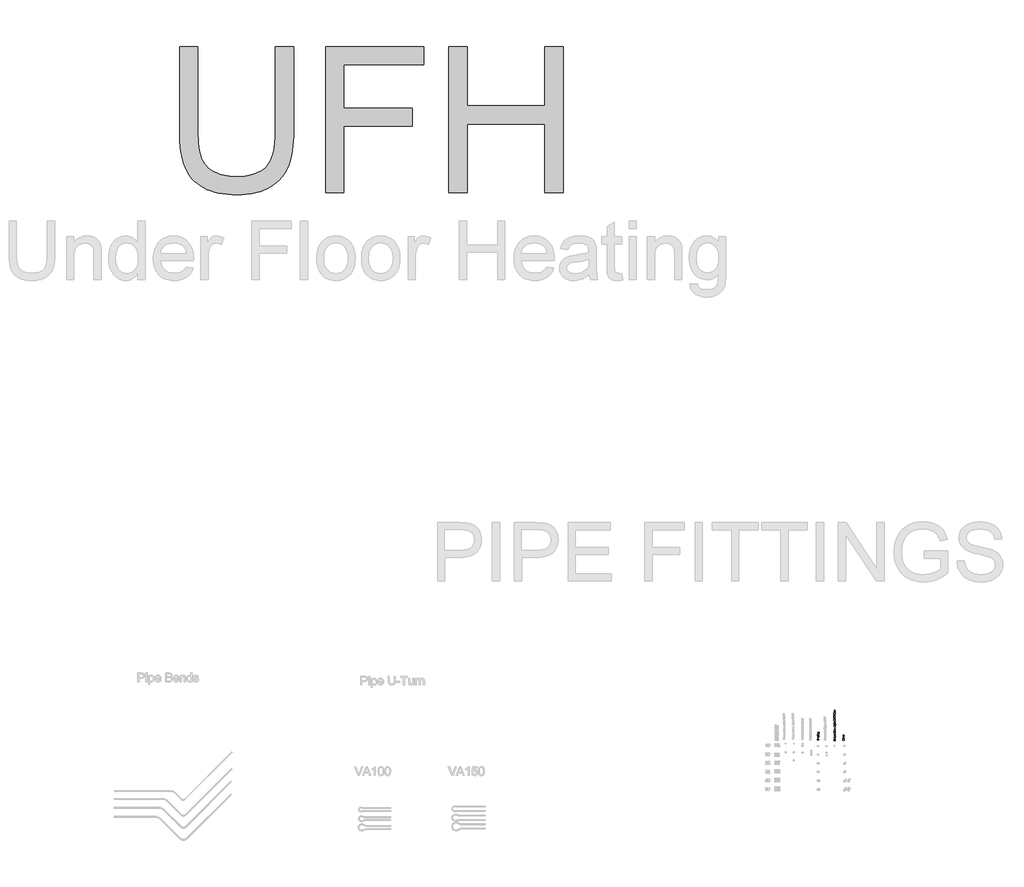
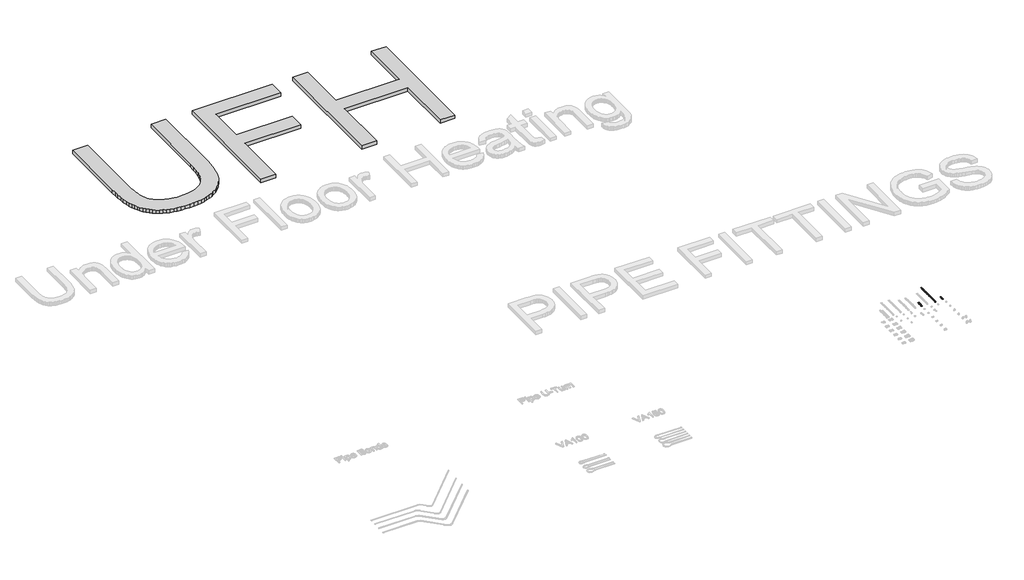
# One storey, part 25 of 26: 4 proxies.
"""IFC4 building model written with IfcOpenShell, lengths in millimetres."""

from ifc_helpers import new_model, si_unit, origin, origin_with_axes, place, context, project, spatial, polyline, outline, extrude, element, save

model = new_model("IFC4")

# Units and contexts
model_context = context("Model", 3, world=origin())
ifc_project = project(units=[si_unit("LENGTHUNIT", "METRE", prefix="MILLI")], contexts=[model_context])

# Site, building, storey
site = spatial("IfcSite", under=ifc_project)
building = spatial("IfcBuilding", under=site)
storey = spatial("IfcBuildingStorey", under=building, Name="Superpipe UFH", Elevation=0.0)

# Proxies
placement = place(None, origin())
element("IfcBuildingElementProxy", 1, Name="5000mm Arial", ObjectType="5000mm Arial", at=placement, inside=storey, context=model_context, shape_type="SweptSolid", body=[
    extrude(outline(polyline([(8543.2862209, 56268.9823855), (9171.1381593, 56268.9823855), (9171.1381593, 53371.2985368), (9168.4748469, 53187.0222301), (9160.4849098, 53012.4986284), (9147.168348, 52847.7277316), (9128.5251615, 52692.7095399), (9104.5553503, 52547.4440531), (9075.2589143, 52411.9312713), (9040.6358536, 52286.1711944), (9000.6861682, 52170.1638226), (8953.8003743, 52061.6194735), (8898.3689883, 51958.2484649), (8834.3920101, 51860.0507969), (8761.8694397, 51767.0264695), (8680.8012771, 51679.1754826), (8591.1875223, 51596.4978363), (8493.0281754, 51518.9935306), (8386.3232362, 51446.6625654), (8271.0152234, 51381.2772889), (8147.0466552, 51324.6100493), (8014.4175318, 51276.6608465), (7873.127853, 51237.4296806), (7723.1776189, 51206.9165516), (7564.5668295, 51185.1214594), (7397.2954848, 51172.0444041), (7221.3635849, 51167.6853857), (7050.001469, 51171.4791688), (6886.6292903, 51182.860518), (6731.2470486, 51201.8294334), (6583.854744, 51228.3859149), (6444.4523766, 51262.5299626), (6313.0399461, 51304.2615764), (6189.6174528, 51353.5807564), (6074.1848966, 51410.4875025), (5966.7326971, 51474.5890241), (5867.2512743, 51545.4925305), (5775.740628, 51623.1980218), (5692.2007582, 51707.7054978), (5616.6316651, 51799.0149586), (5549.0333484, 51897.1264043), (5489.4058084, 52002.0398347), (5437.7490449, 52113.75525), (5393.0571306, 52234.1312205), (5354.3241383, 52365.0263169), (5321.5500678, 52506.440539), (5294.7349193, 52658.373887), (5273.8786926, 52820.8263608), (5258.9813879, 52993.7979603), (5250.043005, 53177.2886857), (5247.0635441, 53371.2985368), (5247.0635441, 56268.9823855), (5874.9154825, 56268.9823855), (5874.9154825, 53393.3714565), (5876.8506951, 53236.2456075), (5882.6563328, 53089.8304895), (5892.3323957, 52954.1261024), (5905.8788838, 52829.1324464), (5923.295797, 52714.8495214), (5944.5831353, 52611.2773274), (5969.7408989, 52518.4158644), (5998.7690876, 52436.2651324), (6032.5107643, 52361.6636455), (6071.808992, 52291.4499178), (6116.6637707, 52225.6239494), (6167.0751003, 52164.1857401), (6223.042981, 52107.1352901), (6284.5674126, 52054.4725993), (6351.6483951, 52006.1976677), (6424.2859286, 51962.3104953), (6501.8093949, 51923.2230333), (6583.5481757, 51889.3472329), (6669.5022711, 51860.6830941), (6759.6716809, 51837.2306169), (6854.0564053, 51818.9898013), (6952.6564442, 51805.9606473), (7055.4717977, 51798.1431549), (7162.5024656, 51795.5373241), (7342.2089882, 51800.6915042), (7508.5414673, 51816.1540443), (7661.4999031, 51841.9249445), (7801.0842956, 51878.0042047), (7927.2946447, 51924.3918251), (8040.1309504, 51981.0878055), (8139.5932127, 52048.0921459), (8225.6814317, 52125.4048465), (8300.1200542, 52217.3753453), (8364.633527, 52328.3530805), (8419.2218501, 52458.3380521), (8463.8850236, 52607.3302602), (8498.6230474, 52775.3297046), (8523.4359215, 52962.3363855), (8538.323646, 53168.3503028), (8543.2862209, 53393.3714565), (8543.2862209, 56268.9823855)])), origin_with_axes(), (0.0, 0.0, 1.0), 150.0),
    extrude(outline(polyline([(10269.8790516, 51246.166878), (10269.8790516, 56268.9823855), (13644.5832206, 56268.9823855), (13644.5832206, 55641.1304471), (10897.73099, 55641.1304471), (10897.73099, 54149.9820933), (13252.1757591, 54149.9820933), (13252.1757591, 53522.1301548), (10897.73099, 53522.1301548), (10897.73099, 51246.166878), (10269.8790516, 51246.166878)])), origin_with_axes(), (0.0, 0.0, 1.0), 150.0),
    extrude(outline(polyline([(14507.879636, 51246.166878), (14507.879636, 56268.9823855), (15135.7315744, 56268.9823855), (15135.7315744, 54228.4635856), (17804.1023128, 54228.4635856), (17804.1023128, 56268.9823855), (18431.9542512, 56268.9823855), (18431.9542512, 51246.166878), (17804.1023128, 51246.166878), (17804.1023128, 53600.6116471), (15135.7315744, 53600.6116471), (15135.7315744, 51246.166878), (14507.879636, 51246.166878)])), origin_with_axes(), (0.0, 0.0, 1.0), 150.0),
])
element("IfcBuildingElementProxy", 2, Name="50mm Arial", ObjectType="50mm Arial", at=placement, inside=storey, context=model_context, shape_type="SweptSolid", body=[
    extrude(outline(polyline([(27210.2541739, 32444.1465288), (27211.8728547, 32450.4250482), (27224.5341267, 32442.9815692), (27228.8935283, 32429.8359192), (27225.5948531, 32416.769977), (27216.042184, 32409.1057688), (27202.6144911, 32406.4754125), (27188.9660691, 32409.4491253), (27180.1185071, 32417.9042798), (27177.0957434, 32429.9708093), (27181.0075553, 32442.5462421), (27192.0194897, 32449.6402333), (27193.5155431, 32443.3617139), (27185.7961526, 32438.211366), (27183.3742628, 32429.7255546), (27186.0598014, 32419.9031053), (27193.2702885, 32414.3542186), (27202.6022284, 32412.7539319), (27213.4179591, 32414.6485242), (27220.3280092, 32420.5468988), (27222.6150089, 32429.2105198), (27219.5002747, 32438.8183713), (27210.2541739, 32444.1465288)])), origin_with_axes(), (0.0, 0.0, 1.0), 2.0),
    extrude(outline(polyline([(27209.6655627, 32456.7035676), (27200.7720155, 32458.0616653), (27194.5210872, 32462.1359584), (27190.4375971, 32473.1969437), (27195.4101354, 32485.061138), (27209.1505279, 32489.6657944), (27220.3218778, 32487.6301806), (27226.6433168, 32481.7011492), (27228.8935283, 32473.1969437), (27223.9393841, 32461.259173), (27209.6655627, 32456.7035676)]), holes=[polyline([(27209.6533, 32462.982087), (27219.3837787, 32465.8883547), (27222.6150089, 32473.1969437), (27219.3653846, 32480.4810072), (27209.4570962, 32483.387275), (27199.9473467, 32480.4626131), (27196.7161165, 32473.1969437), (27199.9350839, 32465.8883547), (27209.6533, 32462.982087)])]), origin_with_axes(), (0.0, 0.0, 1.0), 2.0),
    extrude(outline(polyline([(27228.1087134, 32520.2735764), (27221.7688803, 32520.2735764), (27227.1123663, 32515.3562203), (27228.8935283, 32508.9428109), (27227.6427295, 32503.0383049), (27224.5034698, 32498.9670775), (27219.8804194, 32497.0970107), (27214.0433585, 32496.7291287), (27191.222412, 32496.7291287), (27191.222412, 32503.007648), (27211.0880398, 32503.007648), (27217.4891865, 32503.3877928), (27221.2477142, 32505.8709962), (27222.6150089, 32510.5492289), (27221.2170574, 32515.7915474), (27217.4094787, 32519.2557695), (27210.4135894, 32520.2735764), (27191.222412, 32520.2735764), (27191.222412, 32526.5520957), (27228.1087134, 32526.5520957), (27228.1087134, 32520.2735764)])), origin_with_axes(), (0.0, 0.0, 1.0), 2.0),
    extrude(outline(polyline([(27242.235382, 32535.1850599), (27191.222412, 32535.1850599), (27191.222412, 32541.4635793), (27197.3783041, 32541.4635793), (27192.1727738, 32545.8045868), (27190.4375971, 32551.6661733), (27192.8656183, 32559.6246871), (27199.7082234, 32564.824086), (27209.3835198, 32566.5776568), (27219.555457, 32564.5972254), (27226.4839013, 32558.8460035), (27228.8935283, 32550.9058838), (27227.2809789, 32545.4428362), (27223.2036201, 32541.4635793), (27242.235382, 32541.4635793), (27242.235382, 32535.1850599)]), holes=[polyline([(27209.9598683, 32541.4635793), (27219.5248002, 32544.1797747), (27222.6150089, 32550.7709938), (27219.4144356, 32557.4971029), (27209.4938844, 32560.2991374), (27199.9044271, 32557.5645479), (27196.7161165, 32551.0285111), (27200.1067622, 32544.3637157), (27209.9598683, 32541.4635793)])]), origin_with_axes(), (0.0, 0.0, 1.0), 2.0),
    extrude(outline(polyline([(27228.1087134, 32573.6409911), (27177.8805583, 32573.6409911), (27177.8805583, 32579.9195105), (27228.1087134, 32579.9195105), (27228.1087134, 32573.6409911)])), origin_with_axes(), (0.0, 0.0, 1.0), 2.0),
    extrude(outline(polyline([(27184.1590777, 32589.3372896), (27177.8805583, 32589.3372896), (27177.8805583, 32595.615809), (27184.1590777, 32595.615809), (27184.1590777, 32589.3372896)])), origin_with_axes(), (0.0, 0.0, 1.0), 2.0),
    extrude(outline(polyline([(27228.1087134, 32589.3372896), (27191.222412, 32589.3372896), (27191.222412, 32595.615809), (27228.1087134, 32595.615809), (27228.1087134, 32589.3372896)])), origin_with_axes(), (0.0, 0.0, 1.0), 2.0),
    extrude(outline(polyline([(27228.1087134, 32605.033588), (27191.222412, 32605.033588), (27191.222412, 32611.3121074), (27196.3727599, 32611.3121074), (27191.9213878, 32616.1129675), (27190.4375971, 32622.6673983), (27191.6332136, 32628.5964298), (27194.7724733, 32632.6431318), (27199.3893923, 32634.5254613), (27205.4594452, 32634.8565551), (27228.1087134, 32634.8565551), (27228.1087134, 32628.5780357), (27206.3055738, 32628.5780357), (27200.7505557, 32627.8545345), (27197.8136311, 32625.2977546), (27196.7161165, 32620.9874039), (27199.1809258, 32614.1754556), (27208.5373913, 32611.3121074), (27228.1087134, 32611.3121074), (27228.1087134, 32605.033588)])), origin_with_axes(), (0.0, 0.0, 1.0), 2.0),
    extrude(outline(polyline([(27231.2479731, 32641.9198894), (27232.032788, 32648.1984088), (27235.343726, 32650.2340225), (27236.7416776, 32656.3286009), (27235.159785, 32662.7542731), (27230.7206756, 32665.8199564), (27223.3998239, 32666.249152), (27228.1087134, 32656.4389655), (27226.738353, 32649.9657752), (27222.6272717, 32645.1388569), (27209.4816217, 32641.1350745), (27199.7511429, 32642.9315649), (27192.8656183, 32648.1309638), (27190.4375971, 32656.1323972), (27195.9313016, 32666.249152), (27191.222412, 32666.249152), (27191.222412, 32672.5276714), (27223.0687301, 32672.5276714), (27235.2640182, 32670.8108888), (27240.9355323, 32665.3723666), (27243.0201969, 32656.2059736), (27240.0832723, 32645.7642563), (27231.2479731, 32641.9198894)]), holes=[polyline([(27209.052426, 32647.4135939), (27218.7706421, 32650.0930011), (27221.830194, 32656.8191102), (27218.7890362, 32663.5329566), (27209.236367, 32666.249152), (27199.8737703, 32663.4532489), (27196.7161165, 32656.7210084), (27199.8247193, 32650.1297893), (27209.052426, 32647.4135939)])]), origin_with_axes(), (0.0, 0.0, 1.0), 2.0),
])
element("IfcBuildingElementProxy", 3, Name="50mm Arial", ObjectType="50mm Arial", at=placement, inside=storey, context=model_context, shape_type="SweptSolid", body=[
    extrude(outline(polyline([(27771.7026265, 32419.4735324), (27773.3213073, 32425.7520518), (27785.9825793, 32418.3085727), (27790.3419809, 32405.1629228), (27787.0433057, 32392.0969806), (27777.4906366, 32384.4327723), (27764.0629438, 32381.8024161), (27750.4145217, 32384.7761289), (27741.5669597, 32393.2312834), (27738.544196, 32405.2978128), (27742.4560079, 32417.8732457), (27753.4679423, 32424.9672368), (27754.9639957, 32418.6887175), (27747.2446052, 32413.5383695), (27744.8227154, 32405.0525582), (27747.508254, 32395.2301089), (27754.7187411, 32389.6812221), (27764.050681, 32388.0809355), (27774.8664117, 32389.9755277), (27781.7764618, 32395.8739024), (27784.0634616, 32404.5375234), (27780.9487273, 32414.1453748), (27771.7026265, 32419.4735324)])), origin_with_axes(), (0.0, 0.0, 1.0), 2.0),
    extrude(outline(polyline([(27771.1140153, 32432.0305712), (27762.2204681, 32433.3886688), (27755.9695399, 32437.4629619), (27751.8860497, 32448.5239473), (27756.858588, 32460.3881416), (27770.5989805, 32464.9927979), (27781.7703305, 32462.9571842), (27788.0917694, 32457.0281527), (27790.3419809, 32448.5239473), (27785.3878367, 32436.5861765), (27771.1140153, 32432.0305712)]), holes=[polyline([(27771.1017526, 32438.3090905), (27780.8322314, 32441.2153583), (27784.0634616, 32448.5239473), (27780.8138373, 32455.8080108), (27770.9055489, 32458.7142785), (27761.3957993, 32455.7896167), (27758.1645691, 32448.5239473), (27761.3835366, 32441.2153583), (27771.1017526, 32438.3090905)])]), origin_with_axes(), (0.0, 0.0, 1.0), 2.0),
    extrude(outline(polyline([(27789.557166, 32472.0561322), (27752.6708646, 32472.0561322), (27752.6708646, 32478.3346516), (27758.7409176, 32478.3346516), (27753.7683793, 32482.6511337), (27751.8860497, 32488.794763), (27753.8051675, 32495.0855451), (27759.1823759, 32498.5436359), (27753.7101313, 32503.4425978), (27751.8860497, 32509.6291467), (27754.9210762, 32517.8390465), (27764.2714102, 32520.7146575), (27789.557166, 32520.7146575), (27789.557166, 32514.4361381), (27766.9692115, 32514.4361381), (27761.7268931, 32513.8536582), (27759.1455877, 32511.7444681), (27758.1645691, 32508.1576187), (27760.6784294, 32501.9833325), (27768.7350451, 32499.5246545), (27789.557166, 32499.5246545), (27789.557166, 32493.2461351), (27766.2702357, 32493.2461351), (27760.1879201, 32491.7930013), (27758.1645691, 32487.0289294), (27759.5134697, 32482.3813536), (27763.4620698, 32479.2911448), (27770.9545998, 32478.3346516), (27789.557166, 32478.3346516), (27789.557166, 32472.0561322)])), origin_with_axes(), (0.0, 0.0, 1.0), 2.0),
    extrude(outline(polyline([(27803.6838346, 32530.1324365), (27752.6708646, 32530.1324365), (27752.6708646, 32536.4109559), (27758.8267567, 32536.4109559), (27753.6212265, 32540.7519635), (27751.8860497, 32546.6135499), (27754.3140709, 32554.5720637), (27761.156676, 32559.7714626), (27770.8319725, 32561.5250335), (27781.0039096, 32559.544602), (27787.9323539, 32553.7933802), (27790.3419809, 32545.8532605), (27788.7294315, 32540.3902128), (27784.6520727, 32536.4109559), (27803.6838346, 32536.4109559), (27803.6838346, 32530.1324365)]), holes=[polyline([(27771.4083209, 32536.4109559), (27780.9732528, 32539.1271513), (27784.0634616, 32545.7183704), (27780.8628882, 32552.4444795), (27770.9423371, 32555.2465141), (27761.3528797, 32552.5119246), (27758.1645691, 32545.9758878), (27761.5552148, 32539.3110923), (27771.4083209, 32536.4109559)])]), origin_with_axes(), (0.0, 0.0, 1.0), 2.0),
    extrude(outline(polyline([(27789.557166, 32568.5883678), (27752.6708646, 32568.5883678), (27752.6708646, 32574.0820722), (27758.1277809, 32574.0820722), (27753.1000603, 32577.9816214), (27751.8860497, 32581.905696), (27753.8235616, 32588.2087408), (27759.4521561, 32586.1118135), (27758.1645691, 32581.6972295), (27759.4031051, 32578.1471683), (27762.8366704, 32575.884694), (27770.1697849, 32574.8668871), (27789.557166, 32574.8668871), (27789.557166, 32568.5883678)])), origin_with_axes(), (0.0, 0.0, 1.0), 2.0),
    extrude(outline(polyline([(27778.5697571, 32617.9581315), (27779.354572, 32624.1140236), (27787.4602386, 32618.3566703), (27790.3419809, 32607.6329102), (27785.3694426, 32594.5976248), (27771.4205837, 32589.7783707), (27757.0118722, 32594.6466758), (27751.8860497, 32607.2772909), (27756.9996094, 32619.5461555), (27771.3837955, 32624.3102273), (27773.0760526, 32624.2734391), (27773.0760526, 32596.0568901), (27781.2307702, 32599.668265), (27784.0634616, 32607.7555375), (27782.7513491, 32613.9114296), (27778.5697571, 32617.9581315)]), holes=[polyline([(27766.7975332, 32596.0568901), (27766.7975332, 32618.0317079), (27761.1076251, 32615.5178476), (27758.1645691, 32607.2527655), (27760.5128825, 32599.5211122), (27766.7975332, 32596.0568901)])]), origin_with_axes(), (0.0, 0.0, 1.0), 2.0),
    extrude(outline(polyline([(27778.5697571, 32628.2343019), (27777.7849422, 32634.5128213), (27782.4447808, 32637.4190891), (27784.0634616, 32644.0777532), (27782.5796708, 32650.4788999), (27779.0970546, 32652.5635645), (27776.276626, 32650.4666372), (27774.4862669, 32644.0041768), (27771.4144523, 32634.5496095), (27767.8276028, 32630.4231998), (27762.763094, 32629.0191168), (27758.0848613, 32630.1472883), (27754.5102746, 32633.2252343), (27752.6524705, 32637.216754), (27751.8860497, 32642.6184879), (27753.1184544, 32650.2581707), (27756.4539178, 32655.114213), (27762.0886437, 32657.2724541), (27762.8734586, 32650.9939347), (27759.4092365, 32648.6333585), (27758.1645691, 32643.1089972), (27759.3540542, 32637.100258), (27762.1254319, 32635.2976362), (27763.9525792, 32636.0456629), (27765.338268, 32638.387845), (27766.6749059, 32643.7957103), (27769.6302246, 32653.0111543), (27772.9779508, 32657.2908482), (27778.434867, 32658.8420839), (27784.4436063, 32657.021068), (27788.8030079, 32651.7664869), (27790.3419809, 32643.991914), (27787.3743995, 32633.0412933), (27778.5697571, 32628.2343019)])), origin_with_axes(), (0.0, 0.0, 1.0), 2.0),
    extrude(outline(polyline([(27778.5697571, 32663.5509734), (27777.7849422, 32669.8294928), (27782.4447808, 32672.7357606), (27784.0634616, 32679.3944247), (27782.5796708, 32685.7955714), (27779.0970546, 32687.8802361), (27776.276626, 32685.7833087), (27774.4862669, 32679.3208483), (27771.4144523, 32669.866281), (27767.8276028, 32665.7398713), (27762.763094, 32664.3357884), (27758.0848613, 32665.4639598), (27754.5102746, 32668.5419058), (27752.6524705, 32672.5334255), (27751.8860497, 32677.9351595), (27753.1184544, 32685.5748422), (27756.4539178, 32690.4308846), (27762.0886437, 32692.5891256), (27762.8734586, 32686.3106062), (27759.4092365, 32683.9500301), (27758.1645691, 32678.4256688), (27759.3540542, 32672.4169295), (27762.1254319, 32670.6143078), (27763.9525792, 32671.3623345), (27765.338268, 32673.7045165), (27766.6749059, 32679.1123818), (27769.6302246, 32688.3278258), (27772.9779508, 32692.6075197), (27778.434867, 32694.1587554), (27784.4436063, 32692.3377396), (27788.8030079, 32687.0831584), (27790.3419809, 32679.3085856), (27787.3743995, 32668.3579649), (27778.5697571, 32663.5509734)])), origin_with_axes(), (0.0, 0.0, 1.0), 2.0),
    extrude(outline(polyline([(27745.6075303, 32701.2220898), (27739.3290109, 32701.2220898), (27739.3290109, 32707.5006091), (27745.6075303, 32707.5006091), (27745.6075303, 32701.2220898)])), origin_with_axes(), (0.0, 0.0, 1.0), 2.0),
    extrude(outline(polyline([(27789.557166, 32701.2220898), (27752.6708646, 32701.2220898), (27752.6708646, 32707.5006091), (27789.557166, 32707.5006091), (27789.557166, 32701.2220898)])), origin_with_axes(), (0.0, 0.0, 1.0), 2.0),
    extrude(outline(polyline([(27771.1140153, 32715.3487584), (27762.2204681, 32716.7068561), (27755.9695399, 32720.7811492), (27751.8860497, 32731.8421345), (27756.858588, 32743.7063288), (27770.5989805, 32748.3109851), (27781.7703305, 32746.2753714), (27788.0917694, 32740.3463399), (27790.3419809, 32731.8421345), (27785.3878367, 32719.9043637), (27771.1140153, 32715.3487584)]), holes=[polyline([(27771.1017526, 32721.6272778), (27780.8322314, 32724.5335455), (27784.0634616, 32731.8421345), (27780.8138373, 32739.126198), (27770.9055489, 32742.0324658), (27761.3957993, 32739.1078039), (27758.1645691, 32731.8421345), (27761.3835366, 32724.5335455), (27771.1017526, 32721.6272778)])]), origin_with_axes(), (0.0, 0.0, 1.0), 2.0),
    extrude(outline(polyline([(27789.557166, 32755.3743194), (27752.6708646, 32755.3743194), (27752.6708646, 32761.6528388), (27757.8212126, 32761.6528388), (27753.3698404, 32766.4536989), (27751.8860497, 32773.0081297), (27753.0816662, 32778.9371612), (27756.2209259, 32782.9838632), (27760.8378449, 32784.8661927), (27766.9078978, 32785.1972865), (27789.557166, 32785.1972865), (27789.557166, 32778.9187671), (27767.7540264, 32778.9187671), (27762.1990083, 32778.1952659), (27759.2620837, 32775.638486), (27758.1645691, 32771.3281353), (27760.6293785, 32764.516187), (27769.9858439, 32761.6528388), (27789.557166, 32761.6528388), (27789.557166, 32755.3743194)])), origin_with_axes(), (0.0, 0.0, 1.0), 2.0),
    extrude(outline(polyline([(27789.557166, 32808.3861149), (27739.3290109, 32828.4356837), (27739.3290109, 32833.7822353), (27789.557166, 32853.8318041), (27789.557166, 32847.1976654), (27773.8608676, 32841.4464436), (27773.8608676, 32820.7592127), (27789.557166, 32815.0202536), (27789.557166, 32808.3861149)]), holes=[polyline([(27767.5823482, 32823.0646066), (27767.5823482, 32839.1533125), (27755.2337759, 32834.6283639), (27745.6075303, 32831.1089595), (27754.1546553, 32827.9819626), (27767.5823482, 32823.0646066)])]), origin_with_axes(), (0.0, 0.0, 1.0), 2.0),
    extrude(outline(polyline([(27789.557166, 32882.514337), (27783.6342659, 32882.514337), (27788.6650522, 32878.3603361), (27790.3419809, 32872.6183113), (27787.9139598, 32864.8437385), (27781.1387997, 32859.350034), (27771.1508035, 32857.4002594), (27761.156676, 32859.1967498), (27754.2772827, 32864.5800897), (27751.8860497, 32872.5937858), (27753.596701, 32878.3817959), (27758.0419418, 32882.514337), (27739.3290109, 32882.514337), (27739.3290109, 32888.7928564), (27789.557166, 32888.7928564), (27789.557166, 32882.514337)]), holes=[polyline([(27771.1262781, 32863.6787788), (27780.8444941, 32866.5114702), (27784.0634616, 32873.1946598), (27780.9916469, 32879.7981416), (27771.6045247, 32882.514337), (27761.4141934, 32879.7490906), (27758.1645691, 32872.9371424), (27761.2854347, 32866.3275292), (27771.1262781, 32863.6787788)])]), origin_with_axes(), (0.0, 0.0, 1.0), 2.0),
    extrude(outline(polyline([(27784.8482765, 32921.7550831), (27789.1034449, 32915.6666361), (27790.3419809, 32908.940527), (27787.3621368, 32899.8231849), (27779.7469795, 32896.6410056), (27774.7805725, 32897.8427534), (27771.175329, 32901.0004072), (27769.1151898, 32905.3965971), (27768.1709594, 32910.8289879), (27766.0127183, 32921.7182949), (27759.9794536, 32920.0260378), (27758.1645691, 32913.0853308), (27759.3724483, 32906.733235), (27763.6582736, 32903.7043399), (27762.8734586, 32897.4258205), (27756.742092, 32900.1420159), (27753.1491112, 32905.6111949), (27751.8860497, 32913.8946712), (27753.0019584, 32921.5036971), (27755.803993, 32925.8017851), (27760.0652927, 32927.7270342), (27765.5589972, 32928.0336025), (27773.3703582, 32928.0336025), (27784.2780594, 32928.3524336), (27789.557166, 32929.6032324), (27789.557166, 32923.324713), (27784.8482765, 32921.7550831)]), holes=[polyline([(27772.2912377, 32921.7550831), (27774.2164868, 32911.6260655), (27775.2342937, 32906.2243316), (27776.8897627, 32903.7779163), (27779.3055211, 32902.919525), (27782.7022982, 32904.7895918), (27784.0634616, 32910.2771649), (27782.5612767, 32916.6292607), (27778.9253764, 32920.7250135), (27774.069334, 32921.7182949), (27772.2912377, 32921.7550831)])]), origin_with_axes(), (0.0, 0.0, 1.0), 2.0),
    extrude(outline(polyline([(27803.6838346, 32936.6665667), (27752.6708646, 32936.6665667), (27752.6708646, 32942.9450861), (27758.8267567, 32942.9450861), (27753.6212265, 32947.2860936), (27751.8860497, 32953.1476801), (27754.3140709, 32961.1061939), (27761.156676, 32966.3055927), (27770.8319725, 32968.0591636), (27781.0039096, 32966.0787322), (27787.9323539, 32960.3275103), (27790.3419809, 32952.3873906), (27788.7294315, 32946.924343), (27784.6520727, 32942.9450861), (27803.6838346, 32942.9450861), (27803.6838346, 32936.6665667)]), holes=[polyline([(27771.4083209, 32942.9450861), (27780.9732528, 32945.6612814), (27784.0634616, 32952.2525005), (27780.8628882, 32958.9786097), (27770.9423371, 32961.7806442), (27761.3528797, 32959.0460547), (27758.1645691, 32952.5100179), (27761.5552148, 32945.8452224), (27771.4083209, 32942.9450861)])]), origin_with_axes(), (0.0, 0.0, 1.0), 2.0),
    extrude(outline(polyline([(27784.320979, 32988.4643516), (27789.741107, 32989.2491665), (27790.3419809, 32984.5525397), (27789.2996486, 32979.2918272), (27786.5650591, 32976.6676023), (27779.4404111, 32975.9073128), (27758.949384, 32975.9073128), (27758.949384, 32971.1984233), (27752.6708646, 32971.1984233), (27752.6708646, 32975.9073128), (27743.7068067, 32975.9073128), (27740.015724, 32982.1858322), (27752.6708646, 32982.1858322), (27752.6708646, 32988.4643516), (27758.949384, 32988.4643516), (27758.949384, 32982.1858322), (27779.2564702, 32982.1858322), (27782.4938317, 32982.516926), (27784.0634616, 32985.7297621), (27784.320979, 32988.4643516)])), origin_with_axes(), (0.0, 0.0, 1.0), 2.0),
    extrude(outline(polyline([(27778.5697571, 33020.568187), (27779.354572, 33026.7240791), (27787.4602386, 33020.9667259), (27790.3419809, 33010.2429657), (27785.3694426, 32997.2076803), (27771.4205837, 32992.3884262), (27757.0118722, 32997.2567313), (27751.8860497, 33009.8873464), (27756.9996094, 33022.156211), (27771.3837955, 33026.9202828), (27773.0760526, 33026.8834946), (27773.0760526, 32998.6669456), (27781.2307702, 33002.2783205), (27784.0634616, 33010.365593), (27782.7513491, 33016.5214851), (27778.5697571, 33020.568187)]), holes=[polyline([(27766.7975332, 32998.6669456), (27766.7975332, 33020.6417634), (27761.1076251, 33018.1279031), (27758.1645691, 33009.862821), (27760.5128825, 33002.1311677), (27766.7975332, 32998.6669456)])]), origin_with_axes(), (0.0, 0.0, 1.0), 2.0),
    extrude(outline(polyline([(27789.557166, 33033.1988022), (27752.6708646, 33033.1988022), (27752.6708646, 33038.6925067), (27758.1277809, 33038.6925067), (27753.1000603, 33042.5920558), (27751.8860497, 33046.5161304), (27753.8235616, 33052.8191753), (27759.4521561, 33050.7222479), (27758.1645691, 33046.307664), (27759.4031051, 33042.7576027), (27762.8366704, 33040.4951284), (27770.1697849, 33039.4773216), (27789.557166, 33039.4773216), (27789.557166, 33033.1988022)])), origin_with_axes(), (0.0, 0.0, 1.0), 2.0),
    extrude(outline(polyline([(27776.2153123, 33074.7939931), (27775.4304974, 33081.0725125), (27782.0401106, 33084.5367346), (27784.0634616, 33091.0175891), (27781.2798211, 33098.6450091), (27774.3881651, 33101.4777005), (27767.8950479, 33098.6695346), (27765.3260053, 33091.5326239), (27766.0127183, 33087.1303027), (27759.7341989, 33087.8292785), (27758.0051536, 33095.9594706), (27752.4623982, 33099.1232557), (27747.5511735, 33096.8301246), (27745.6075303, 33090.9194872), (27747.5695676, 33084.9352735), (27753.4556796, 33081.8573274), (27752.6708646, 33075.578808), (27742.8238899, 33080.7168932), (27739.3290109, 33090.698758), (27741.051925, 33098.2709958), (27745.7608145, 33103.5684965), (27752.0945162, 33105.4017751), (27757.8825262, 33103.660467), (27762.0395928, 33098.5101191), (27766.3315494, 33105.3527242), (27774.4985297, 33107.7562199), (27785.7311933, 33102.9492285), (27790.3419809, 33090.7968599), (27786.4056436, 33079.7849255), (27776.2153123, 33074.7939931)])), origin_with_axes(), (0.0, 0.0, 1.0), 2.0),
    extrude(outline(polyline([(27789.557166, 33110.1106647), (27739.3290109, 33124.2373333), (27739.3290109, 33129.902716), (27789.557166, 33115.7760474), (27789.557166, 33110.1106647)])), origin_with_axes(), (0.0, 0.0, 1.0), 2.0),
    extrude(outline(polyline([(27789.557166, 33153.2754854), (27777.7849422, 33153.2754854), (27777.7849422, 33130.5158527), (27771.5064228, 33130.5158527), (27740.1138259, 33154.8451153), (27740.1138259, 33159.5540048), (27771.5064228, 33159.5540048), (27771.5064228, 33165.8325242), (27777.7849422, 33165.8325242), (27777.7849422, 33159.5540048), (27789.557166, 33159.5540048), (27789.557166, 33153.2754854)]), holes=[polyline([(27771.5064228, 33153.2754854), (27752.1067789, 33153.2754854), (27771.5064228, 33138.2413746), (27771.5064228, 33153.2754854)])]), origin_with_axes(), (0.0, 0.0, 1.0), 2.0),
    extrude(outline(polyline([(27757.3797542, 33185.3793209), (27747.6799322, 33183.8832674), (27739.3290109, 33183.8832674), (27739.3290109, 33190.1617868), (27747.6799322, 33190.1617868), (27757.3797542, 33188.6902588), (27757.3797542, 33185.3793209)])), origin_with_axes(), (0.0, 0.0, 1.0), 2.0),
    extrude(outline(polyline([(27757.3797542, 33172.8590703), (27747.6799322, 33171.3262287), (27739.3290109, 33171.3262287), (27739.3290109, 33177.604748), (27747.6799322, 33177.604748), (27757.3797542, 33176.2313219), (27757.3797542, 33172.8590703)])), origin_with_axes(), (0.0, 0.0, 1.0), 2.0),
    extrude(outline(polyline([(27789.557166, 33198.794751), (27739.3290109, 33198.794751), (27739.3290109, 33232.5417927), (27745.6075303, 33232.5417927), (27745.6075303, 33205.0732703), (27760.5190139, 33205.0732703), (27760.5190139, 33228.617718), (27766.7975332, 33228.617718), (27766.7975332, 33205.0732703), (27789.557166, 33205.0732703), (27789.557166, 33198.794751)])), origin_with_axes(), (0.0, 0.0, 1.0), 2.0),
    extrude(outline(polyline([(27789.557166, 33253.7317956), (27745.6075303, 33253.7317956), (27745.6075303, 33237.2506822), (27739.3290109, 33237.2506822), (27739.3290109, 33276.4914283), (27745.6075303, 33276.4914283), (27745.6075303, 33260.010315), (27789.557166, 33260.010315), (27789.557166, 33253.7317956)])), origin_with_axes(), (0.0, 0.0, 1.0), 2.0),
    extrude(outline(polyline([(27789.557166, 33303.1751357), (27739.3290109, 33303.1751357), (27739.3290109, 33339.2766222), (27745.6075303, 33339.2766222), (27745.6075303, 33309.4536551), (27760.5190139, 33309.4536551), (27760.5190139, 33337.7069923), (27766.7975332, 33337.7069923), (27766.7975332, 33309.4536551), (27783.2786466, 33309.4536551), (27783.2786466, 33340.0614371), (27789.557166, 33340.0614371), (27789.557166, 33303.1751357)])), origin_with_axes(), (0.0, 0.0, 1.0), 2.0),
    extrude(outline(polyline([(27789.557166, 33372.238849), (27783.217333, 33372.238849), (27788.5608189, 33367.321493), (27790.3419809, 33360.9080835), (27789.0911822, 33355.0035775), (27785.9519225, 33350.9323501), (27781.3288721, 33349.0622833), (27775.4918111, 33348.6944013), (27752.6708646, 33348.6944013), (27752.6708646, 33354.9729206), (27772.5364924, 33354.9729206), (27778.9376391, 33355.3530654), (27782.6961668, 33357.8362688), (27784.0634616, 33362.5145016), (27782.66551, 33367.75682), (27778.8579313, 33371.2210421), (27771.862042, 33372.238849), (27752.6708646, 33372.238849), (27752.6708646, 33378.5173683), (27789.557166, 33378.5173683), (27789.557166, 33372.238849)])), origin_with_axes(), (0.0, 0.0, 1.0), 2.0),
    extrude(outline(polyline([(27789.557166, 33387.1503325), (27752.6708646, 33387.1503325), (27752.6708646, 33392.644037), (27758.1277809, 33392.644037), (27753.1000603, 33396.5435861), (27751.8860497, 33400.4676607), (27753.8235616, 33406.7707056), (27759.4521561, 33404.6737782), (27758.1645691, 33400.2591943), (27759.4031051, 33396.709133), (27762.8366704, 33394.4466587), (27770.1697849, 33393.4288519), (27789.557166, 33393.4288519), (27789.557166, 33387.1503325)])), origin_with_axes(), (0.0, 0.0, 1.0), 2.0),
    extrude(outline(polyline([(27771.1140153, 33409.1251503), (27762.2204681, 33410.483248), (27755.9695399, 33414.5575411), (27751.8860497, 33425.6185265), (27756.858588, 33437.4827208), (27770.5989805, 33442.0873771), (27781.7703305, 33440.0517634), (27788.0917694, 33434.1227319), (27790.3419809, 33425.6185265), (27785.3878367, 33413.6807557), (27771.1140153, 33409.1251503)]), holes=[polyline([(27771.1017526, 33415.4036697), (27780.8322314, 33418.3099375), (27784.0634616, 33425.6185265), (27780.8138373, 33432.90259), (27770.9055489, 33435.8088577), (27761.3957993, 33432.8841959), (27758.1645691, 33425.6185265), (27761.3835366, 33418.3099375), (27771.1017526, 33415.4036697)])]), origin_with_axes(), (0.0, 0.0, 1.0), 2.0),
])
element("IfcBuildingElementProxy", 4, Name="50mm Arial", ObjectType="50mm Arial", at=placement, inside=storey, context=model_context, shape_type="SweptSolid", body=[
    extrude(outline(polyline([(28108.1087134, 32408.8298573), (28057.8805583, 32408.8298573), (28057.8805583, 32444.9313437), (28064.1590777, 32444.9313437), (28064.1590777, 32415.1083767), (28079.0705612, 32415.1083767), (28079.0705612, 32443.3617139), (28085.3490806, 32443.3617139), (28085.3490806, 32415.1083767), (28101.830194, 32415.1083767), (28101.830194, 32445.7161587), (28108.1087134, 32445.7161587), (28108.1087134, 32408.8298573)])), origin_with_axes(), (0.0, 0.0, 1.0), 2.0),
    extrude(outline(polyline([(28108.1087134, 32454.3491228), (28057.8805583, 32454.3491228), (28057.8805583, 32460.6276422), (28108.1087134, 32460.6276422), (28108.1087134, 32454.3491228)])), origin_with_axes(), (0.0, 0.0, 1.0), 2.0),
    extrude(outline(polyline([(28108.1087134, 32476.3239407), (28108.1087134, 32470.0454213), (28057.8805583, 32470.0454213), (28057.8805583, 32476.3239407), (28076.50765, 32476.3239407), (28070.4375971, 32486.1831781), (28071.8048918, 32492.4739602), (28075.6492587, 32497.3545281), (28081.6273411, 32500.3527663), (28089.1137397, 32501.4380182), (28103.7309177, 32496.9437265), (28108.8935283, 32486.1463899), (28107.2288623, 32480.5637807), (28102.2348642, 32476.3239407), (28108.1087134, 32476.3239407)]), holes=[polyline([(28089.4080453, 32476.3239407), (28098.1881623, 32478.0407233), (28102.6150089, 32485.6068297), (28099.3531219, 32492.3268075), (28089.6287745, 32495.1594988), (28079.8676389, 32492.4433034), (28076.7161165, 32485.8766098), (28079.9780035, 32479.156632), (28089.4080453, 32476.3239407)])]), origin_with_axes(), (0.0, 0.0, 1.0), 2.0),
    extrude(outline(polyline([(28089.6655627, 32506.9317227), (28080.7720155, 32508.2898204), (28074.5210872, 32512.3641135), (28070.4375971, 32523.4250988), (28075.4101354, 32535.2892931), (28089.1505279, 32539.8939494), (28100.3218778, 32537.8583357), (28106.6433168, 32531.9293042), (28108.8935283, 32523.4250988), (28103.9393841, 32511.487328), (28089.6655627, 32506.9317227)]), holes=[polyline([(28089.6533, 32513.210242), (28099.3837787, 32516.1165098), (28102.6150089, 32523.4250988), (28099.3653846, 32530.7091623), (28089.4570962, 32533.61543), (28079.9473467, 32530.6907682), (28076.7161165, 32523.4250988), (28079.9350839, 32516.1165098), (28089.6533, 32513.210242)])]), origin_with_axes(), (0.0, 0.0, 1.0), 2.0),
    extrude(outline(polyline([(28108.1087134, 32553.0763876), (28071.222412, 32541.8559867), (28071.222412, 32548.3797608), (28092.7435087, 32554.7441193), (28100.4322424, 32556.6448429), (28093.0255516, 32558.2022101), (28071.222412, 32563.2667189), (28071.222412, 32570.7469861), (28092.9642379, 32575.7869694), (28099.671953, 32577.1726583), (28092.5963559, 32579.159221), (28071.222412, 32585.5358423), (28071.222412, 32592.0841418), (28108.1087134, 32580.7779018), (28108.1087134, 32573.18727), (28086.4772521, 32568.3680159), (28079.7327488, 32566.9700643), (28108.1087134, 32560.7528586), (28108.1087134, 32553.0763876)])), origin_with_axes(), (0.0, 0.0, 1.0), 2.0),
])

save(model, "model.ifc")
